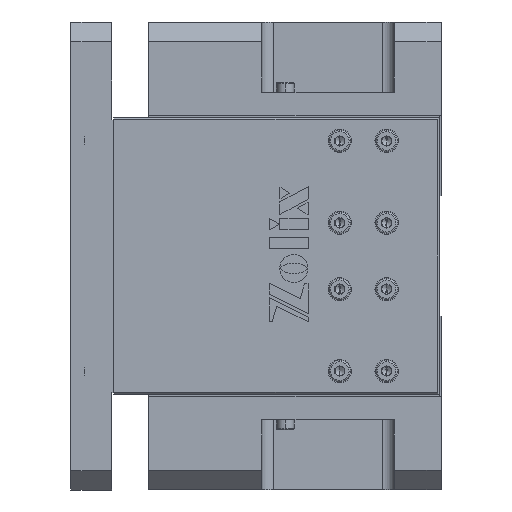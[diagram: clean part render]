
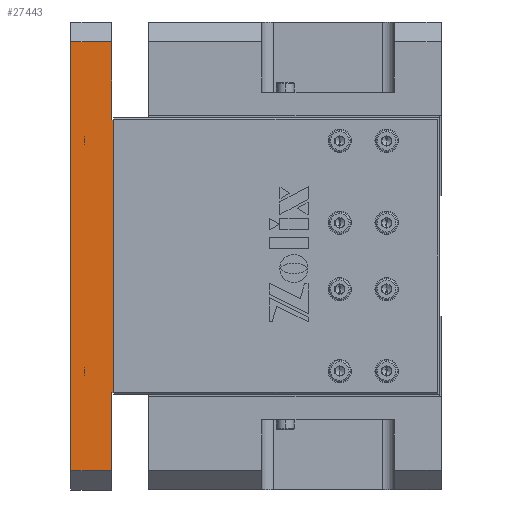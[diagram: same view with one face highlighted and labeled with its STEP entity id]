
A CAD part, left-side view. The second image highlights one B-rep face of the part: STEP entity #27443.
In plain terms, the highlighted planar face has unit normal (-1, 0, 0).
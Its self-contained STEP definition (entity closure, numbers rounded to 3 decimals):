
#2234 = CARTESIAN_POINT ( 'NONE',  ( -60., 95., 55. ) ) ;
#2743 = ORIENTED_EDGE ( 'NONE', *, *, #51879, .T. ) ;
#3126 = CARTESIAN_POINT ( 'NONE',  ( -60., 95., -55. ) ) ;
#3723 = ORIENTED_EDGE ( 'NONE', *, *, #15645, .T. ) ;
#3956 = DIRECTION ( 'NONE',  ( 0., 0., -1. ) ) ;
#4474 = DIRECTION ( 'NONE',  ( 0., 0., -1. ) ) ;
#4537 = LINE ( 'NONE', #9336, #46764 ) ;
#4585 = DIRECTION ( 'NONE',  ( 0., -1., 0. ) ) ;
#4723 = CARTESIAN_POINT ( 'NONE',  ( -60., 84.5, 60. ) ) ;
#5743 = ORIENTED_EDGE ( 'NONE', *, *, #11370, .F. ) ;
#6102 = DIRECTION ( 'NONE',  ( 0., 0., -1. ) ) ;
#9336 = CARTESIAN_POINT ( 'NONE',  ( -60., 84.5, 60. ) ) ;
#10396 = PLANE ( 'NONE',  #48078 ) ;
#10856 = VECTOR ( 'NONE', #56164, 1000. ) ;
#11370 = EDGE_CURVE ( 'NONE', #50230, #55850, #35782, .T. ) ;
#12635 = CARTESIAN_POINT ( 'NONE',  ( -60., 84.5, -55. ) ) ;
#15209 = VERTEX_POINT ( 'NONE', #12635 ) ;
#15645 = EDGE_CURVE ( 'NONE', #49527, #18636, #20941, .T. ) ;
#16111 = VECTOR ( 'NONE', #39090, 1000. ) ;
#17526 = EDGE_LOOP ( 'NONE', ( #5743, #40494, #2743, #44088, #23846, #43465, #3723, #21252 ) ) ;
#18636 = VERTEX_POINT ( 'NONE', #38774 ) ;
#18799 = VECTOR ( 'NONE', #45183, 1000. ) ;
#19115 = VECTOR ( 'NONE', #25535, 1000. ) ;
#19476 = VERTEX_POINT ( 'NONE', #2234 ) ;
#19851 = LINE ( 'NONE', #43293, #19115 ) ;
#19996 = EDGE_CURVE ( 'NONE', #51553, #19476, #19851, .T. ) ;
#20044 = DIRECTION ( 'NONE',  ( 1., 0., 0. ) ) ;
#20102 = VERTEX_POINT ( 'NONE', #39272 ) ;
#20375 = CARTESIAN_POINT ( 'NONE',  ( -60., 84., 35. ) ) ;
#20941 = LINE ( 'NONE', #48688, #16111 ) ;
#21252 = ORIENTED_EDGE ( 'NONE', *, *, #54125, .T. ) ;
#21330 = CARTESIAN_POINT ( 'NONE',  ( -60., 84., 60. ) ) ;
#23846 = ORIENTED_EDGE ( 'NONE', *, *, #30691, .T. ) ;
#24077 = LINE ( 'NONE', #21330, #44796 ) ;
#24146 = CARTESIAN_POINT ( 'NONE',  ( -60., 95., 60. ) ) ;
#24352 = FACE_OUTER_BOUND ( 'NONE', #17526, .T. ) ;
#25535 = DIRECTION ( 'NONE',  ( 0., 0., 1. ) ) ;
#27443 = ADVANCED_FACE ( 'NONE', ( #24352 ), #10396, .F. ) ;
#28624 = CARTESIAN_POINT ( 'NONE',  ( -60., 84.5, -35. ) ) ;
#29667 = DIRECTION ( 'NONE',  ( 0., 0., 1. ) ) ;
#30691 = EDGE_CURVE ( 'NONE', #51553, #15209, #30947, .T. ) ;
#30947 = LINE ( 'NONE', #3126, #10856 ) ;
#31039 = EDGE_CURVE ( 'NONE', #20102, #50230, #4537, .T. ) ;
#32263 = CARTESIAN_POINT ( 'NONE',  ( -60., 95., 55. ) ) ;
#34402 = VECTOR ( 'NONE', #3956, 1000. ) ;
#35782 = LINE ( 'NONE', #35800, #44044 ) ;
#35800 = CARTESIAN_POINT ( 'NONE',  ( -60., 84.5, 35. ) ) ;
#36870 = CARTESIAN_POINT ( 'NONE',  ( -60., 95., -55. ) ) ;
#38774 = CARTESIAN_POINT ( 'NONE',  ( -60., 84., -35. ) ) ;
#39090 = DIRECTION ( 'NONE',  ( 0., -1., 0. ) ) ;
#39272 = CARTESIAN_POINT ( 'NONE',  ( -60., 84.5, 55. ) ) ;
#40494 = ORIENTED_EDGE ( 'NONE', *, *, #31039, .F. ) ;
#40953 = LINE ( 'NONE', #32263, #18799 ) ;
#43293 = CARTESIAN_POINT ( 'NONE',  ( -60., 95., 60. ) ) ;
#43465 = ORIENTED_EDGE ( 'NONE', *, *, #45421, .F. ) ;
#44044 = VECTOR ( 'NONE', #4585, 1000. ) ;
#44088 = ORIENTED_EDGE ( 'NONE', *, *, #19996, .F. ) ;
#44796 = VECTOR ( 'NONE', #29667, 1000. ) ;
#45183 = DIRECTION ( 'NONE',  ( 0., 1., 0. ) ) ;
#45421 = EDGE_CURVE ( 'NONE', #49527, #15209, #46763, .T. ) ;
#46763 = LINE ( 'NONE', #4723, #34402 ) ;
#46764 = VECTOR ( 'NONE', #4474, 1000. ) ;
#48078 = AXIS2_PLACEMENT_3D ( 'NONE', #24146, #20044, #6102 ) ;
#48688 = CARTESIAN_POINT ( 'NONE',  ( -60., 84.5, -35. ) ) ;
#49527 = VERTEX_POINT ( 'NONE', #28624 ) ;
#50230 = VERTEX_POINT ( 'NONE', #52646 ) ;
#51553 = VERTEX_POINT ( 'NONE', #36870 ) ;
#51879 = EDGE_CURVE ( 'NONE', #20102, #19476, #40953, .T. ) ;
#52646 = CARTESIAN_POINT ( 'NONE',  ( -60., 84.5, 35. ) ) ;
#54125 = EDGE_CURVE ( 'NONE', #18636, #55850, #24077, .T. ) ;
#55850 = VERTEX_POINT ( 'NONE', #20375 ) ;
#56164 = DIRECTION ( 'NONE',  ( 0., -1., 0. ) ) ;
